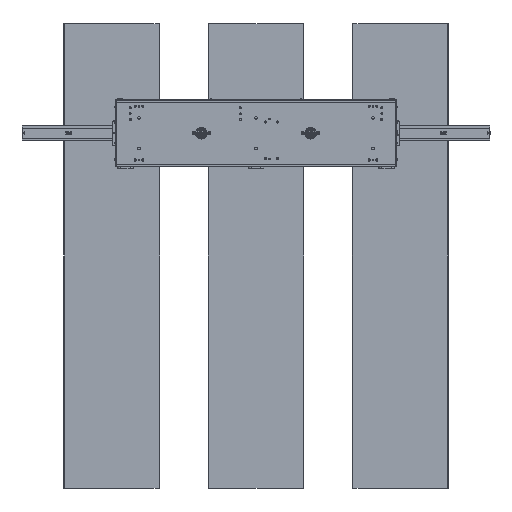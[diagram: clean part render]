
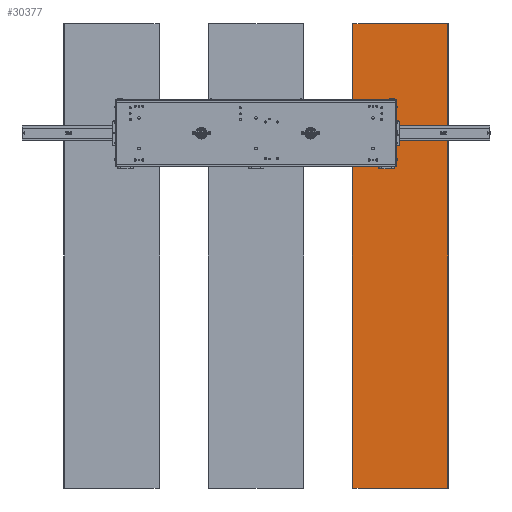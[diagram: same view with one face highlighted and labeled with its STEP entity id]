
A CAD part, front view. The second image highlights one B-rep face of the part: STEP entity #30377.
In plain terms, the highlighted planar face has unit normal (0, -1, 0).
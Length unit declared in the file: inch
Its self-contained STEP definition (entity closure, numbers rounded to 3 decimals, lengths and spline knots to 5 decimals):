
#435 = CARTESIAN_POINT ( 'NONE',  ( 24.69685, 11.5725, -90.98484 ) ) ;
#3519 = EDGE_CURVE ( 'NONE', #5942, #18484, #15960, .T. ) ;
#4083 = CARTESIAN_POINT ( 'NONE',  ( 49.13715, 11.5725, -90.98484 ) ) ;
#4410 = DIRECTION ( 'NONE',  ( 1., 0., 0. ) ) ;
#5942 = VERTEX_POINT ( 'NONE', #10073 ) ;
#6644 = DIRECTION ( 'NONE',  ( 0., 0., -1. ) ) ;
#9006 = CARTESIAN_POINT ( 'NONE',  ( 24.69685, 11.5725, 28.01516 ) ) ;
#9520 = LINE ( 'NONE', #4083, #17772 ) ;
#10073 = CARTESIAN_POINT ( 'NONE',  ( 24.86285, 11.5725, -90.98484 ) ) ;
#10293 = EDGE_LOOP ( 'NONE', ( #22599, #11903, #20512, #38574 ) ) ;
#11903 = ORIENTED_EDGE ( 'NONE', *, *, #33717, .F. ) ;
#12122 = DIRECTION ( 'NONE',  ( 1., 0., 0. ) ) ;
#12790 = LINE ( 'NONE', #9006, #31470 ) ;
#14491 = VERTEX_POINT ( 'NONE', #21400 ) ;
#14971 = VERTEX_POINT ( 'NONE', #29442 ) ;
#15960 = LINE ( 'NONE', #16762, #26031 ) ;
#16762 = CARTESIAN_POINT ( 'NONE',  ( 24.69685, 11.5725, -90.98484 ) ) ;
#17772 = VECTOR ( 'NONE', #34764, 39.37008 ) ;
#18484 = VERTEX_POINT ( 'NONE', #36264 ) ;
#19354 = LINE ( 'NONE', #24640, #28436 ) ;
#20512 = ORIENTED_EDGE ( 'NONE', *, *, #3519, .T. ) ;
#21400 = CARTESIAN_POINT ( 'NONE',  ( 49.13715, 11.5725, 28.01516 ) ) ;
#21988 = PLANE ( 'NONE',  #31822 ) ;
#22599 = ORIENTED_EDGE ( 'NONE', *, *, #30704, .F. ) ;
#24554 = EDGE_CURVE ( 'NONE', #18484, #14491, #9520, .T. ) ;
#24640 = CARTESIAN_POINT ( 'NONE',  ( 24.86285, 11.5725, -90.98484 ) ) ;
#25424 = DIRECTION ( 'NONE',  ( 0., -1., 0. ) ) ;
#26031 = VECTOR ( 'NONE', #4410, 39.37008 ) ;
#28436 = VECTOR ( 'NONE', #39895, 39.37008 ) ;
#29069 = FACE_OUTER_BOUND ( 'NONE', #10293, .T. ) ;
#29442 = CARTESIAN_POINT ( 'NONE',  ( 24.86285, 11.5725, 28.01516 ) ) ;
#30377 = ADVANCED_FACE ( 'NONE', ( #29069 ), #21988, .T. ) ;
#30704 = EDGE_CURVE ( 'NONE', #14971, #14491, #12790, .T. ) ;
#31470 = VECTOR ( 'NONE', #12122, 39.37008 ) ;
#31822 = AXIS2_PLACEMENT_3D ( 'NONE', #435, #25424, #6644 ) ;
#33717 = EDGE_CURVE ( 'NONE', #5942, #14971, #19354, .T. ) ;
#34764 = DIRECTION ( 'NONE',  ( 0., 0., 1. ) ) ;
#36264 = CARTESIAN_POINT ( 'NONE',  ( 49.13715, 11.5725, -90.98484 ) ) ;
#38574 = ORIENTED_EDGE ( 'NONE', *, *, #24554, .T. ) ;
#39895 = DIRECTION ( 'NONE',  ( 0., 0., 1. ) ) ;
